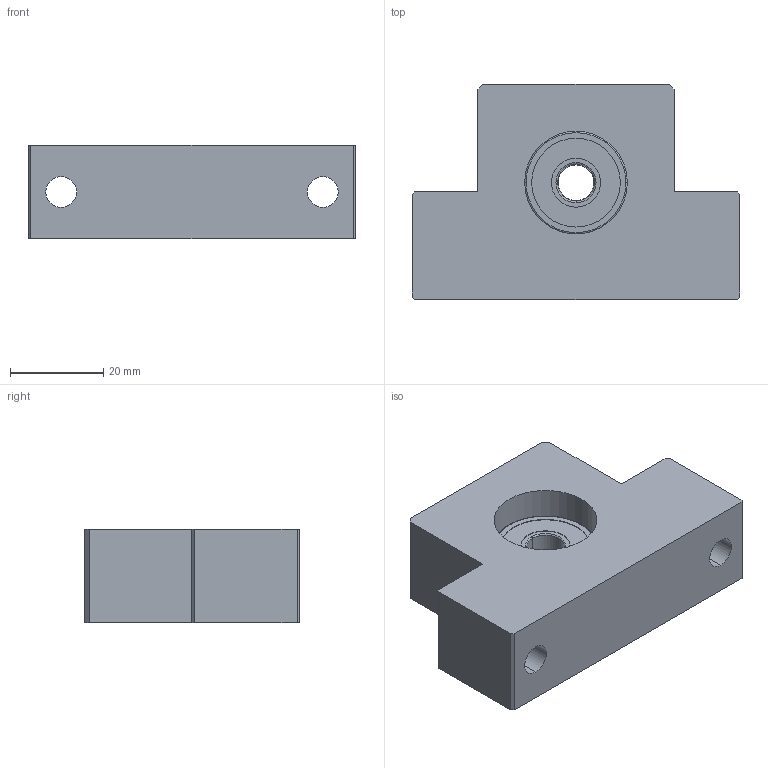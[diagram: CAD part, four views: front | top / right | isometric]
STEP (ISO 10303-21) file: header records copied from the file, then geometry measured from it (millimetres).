
FILE_DESCRIPTION (( 'STEP AP214' ), '1' );
FILE_NAME ('F-SBU-10.STEP', '2023-04-10T07:48:59', ( '' ), ( '' ), 'SwSTEP 2.0', 'SolidWorks 2021', '' );
FILE_SCHEMA (( 'AUTOMOTIVE_DESIGN' ));
Length unit declared in the file: millimetre
Products named in the file (9): F-SBU-10; 608ZZ Outer Ring; 608ZZ Shield2; 608ZZ Ball; 608ZZ Inner Ring; 608ZZ; 608ZZ Shield1; STWN8; F-SBU-10 BODY
Assembly tree (15 placements, depth 3):
  F-SBU-10
    F-SBU-10 BODY
    608ZZ
      608ZZ Shield2
      608ZZ Ball  x8
      608ZZ Shield1
      608ZZ Inner Ring
      608ZZ Outer Ring
    STWN8
Bounding box: 70 x 46 x 20 mm (x, y, z)
Volume: 43953 mm3; surface area: 14323 mm2
Topology: 14 solids, 14 shells, 115 faces, 287 edges, 188 vertices
Faces by surface type: cylinder 43, plane 42, sphere 16, torus 14
Entity records: 3331 total; most frequent: DIRECTION 585, CARTESIAN_POINT 503, ORIENTED_EDGE 466, EDGE_CURVE 233, AXIS2_PLACEMENT_3D 232, VERTEX_POINT 150, VECTOR 121, LINE 121
